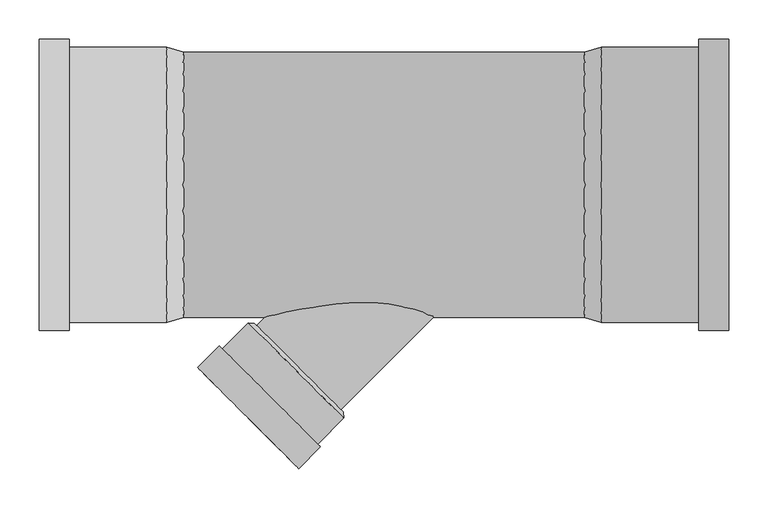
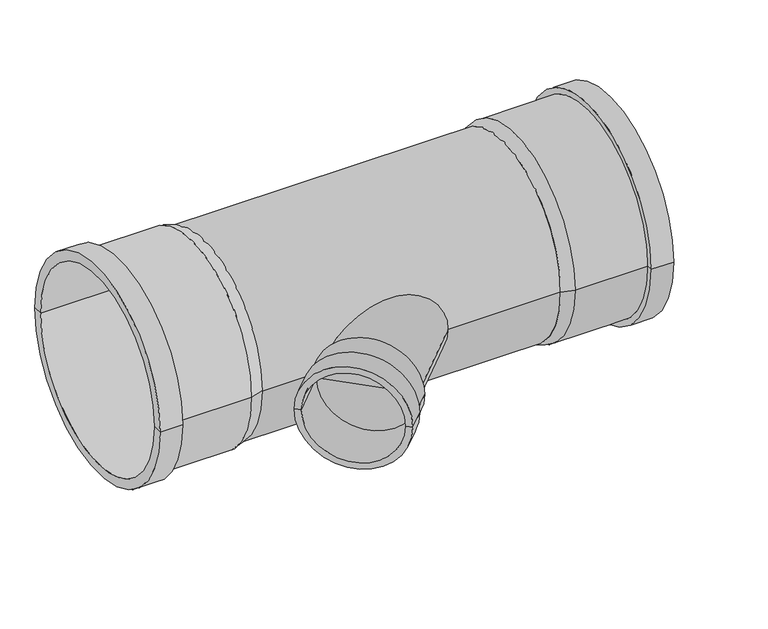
"""IFC4 building model written with IfcOpenShell, lengths in millimetres: pipe fitting geometry, PIF_X-Stream_TransitionTee_X-Stream-PVC_Wavin : Socket End - Black RAL9200 - Tee 45°."""

from ifc_helpers import new_model, si_unit, point, frame, origin, origin_2d, place, context, project, spatial, polyline, circle_curve, trimmed, segment, composite_curve, outline, extrude, source, transform, mapped, element, save
from ifc_brep_helpers import plane_surface, cylinder_surface, revolved_surface, advanced_brep


def pipe_fitting_3b8126a7(model_context):
    return source(origin(), model_context, "Body", "SolidModel", [
        advanced_brep(
        [(-289.6309376, -176.4938526, 0.0), (-176.4938526, -289.6309376, 0.0), (-175.8221011, -297.3737568, 0.0), (-297.3737568, -175.8221011, 0.0), (-233.0623951, -233.0623951, 0.0), (-293.1664715, -180.0293865, 0.0), (-180.0293865, -293.1664715, 0.0), (-236.597929, -236.597929, 0.0), (-353.9776547, -240.8405697, 0.0), (-240.8405697, -353.9776547, 0.0), (-361.8265399, -232.9916844, 0.0), (-232.9916844, -361.8265399, 0.0), (-334.2493755, -205.4145199, 0.0), (-205.4145199, -334.2493755, 0.0), (-330.6077755, -209.0561199, 0.0), (-209.0561199, -330.6077755, 0.0)],
        [
            (0, 1, circle_curve(frame((-233.0623951, -233.0623951, 0.0), z_axis=(-0.7071067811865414, -0.7071067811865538, 0.0), x_axis=(0.7071067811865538, -0.7071067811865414, 0.0)), 80.0)),
            (1, 2),
            (2, 3, circle_curve(frame((-236.597929, -236.597929, 0.0), z_axis=(0.7071067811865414, 0.7071067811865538, 0.0), x_axis=(0.7071067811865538, -0.7071067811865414, 0.0)), 85.95)),
            (3, 0),
            (1, 0, circle_curve(frame((-233.0623951, -233.0623951, 0.0), z_axis=(-0.7071067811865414, -0.7071067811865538, 0.0), x_axis=(0.7071067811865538, -0.7071067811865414, 0.0)), 80.0)),
            (3, 2, circle_curve(frame((-236.597929, -236.597929, 0.0), z_axis=(0.7071067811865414, 0.7071067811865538, 0.0), x_axis=(0.7071067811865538, -0.7071067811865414, 0.0)), 85.95)),
            (4, 1),
            (0, 4),
            (5, 6, circle_curve(frame((-236.597929, -236.597929, 0.0), z_axis=(-0.7071067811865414, -0.7071067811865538, 0.0), x_axis=(0.7071067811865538, -0.7071067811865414, 0.0)), 80.0)),
            (6, 7),
            (7, 5),
            (6, 5, circle_curve(frame((-236.597929, -236.597929, 0.0), z_axis=(-0.7071067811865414, -0.7071067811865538, 0.0), x_axis=(0.7071067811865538, -0.7071067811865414, 0.0)), 80.0)),
            (8, 9, circle_curve(frame((-297.4091122, -297.4091122, 0.0), z_axis=(-0.7071067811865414, -0.7071067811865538, 0.0), x_axis=(0.7071067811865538, -0.7071067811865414, 0.0)), 80.0)),
            (9, 6),
            (5, 8),
            (9, 8, circle_curve(frame((-297.4091122, -297.4091122, 0.0), z_axis=(-0.7071067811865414, -0.7071067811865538, 0.0), x_axis=(0.7071067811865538, -0.7071067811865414, 0.0)), 80.0)),
            (10, 11, circle_curve(frame((-297.4091122, -297.4091122, 0.0), z_axis=(-0.7071067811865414, -0.7071067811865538, 0.0), x_axis=(0.7071067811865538, -0.7071067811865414, 0.0)), 91.1)),
            (11, 9),
            (8, 10),
            (11, 10, circle_curve(frame((-297.4091122, -297.4091122, 0.0), z_axis=(-0.7071067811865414, -0.7071067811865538, 0.0), x_axis=(0.7071067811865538, -0.7071067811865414, 0.0)), 91.1)),
            (12, 13, circle_curve(frame((-269.8319477, -269.8319477, 0.0), z_axis=(-0.7071067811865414, -0.7071067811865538, 0.0), x_axis=(0.7071067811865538, -0.7071067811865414, 0.0)), 91.1)),
            (13, 11),
            (10, 12),
            (13, 12, circle_curve(frame((-269.8319477, -269.8319477, 0.0), z_axis=(-0.7071067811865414, -0.7071067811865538, 0.0), x_axis=(0.7071067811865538, -0.7071067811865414, 0.0)), 91.1)),
            (14, 15, circle_curve(frame((-269.8319477, -269.8319477, 0.0), z_axis=(-0.7071067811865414, -0.7071067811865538, 0.0), x_axis=(0.7071067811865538, -0.7071067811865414, 0.0)), 85.95)),
            (15, 13),
            (12, 14),
            (15, 14, circle_curve(frame((-269.8319477, -269.8319477, 0.0), z_axis=(-0.7071067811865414, -0.7071067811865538, 0.0), x_axis=(0.7071067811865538, -0.7071067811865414, 0.0)), 85.95)),
            (2, 15),
            (14, 3),
        ],
        [
            revolved_surface(polyline([(-175.8221011, -297.3737568, 0.0), (-176.4938526, -289.6309376, 0.0)]), (-1643.1227703, -1643.1227703, 0.0), (0.7071067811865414, 0.7071067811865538, 0.0)),
            plane_surface(frame((-233.0623951, -233.0623951, 0.0), z_axis=(0.7071067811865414, 0.7071067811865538, 0.0), x_axis=(0.7071067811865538, -0.7071067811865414, 0.0))),
            plane_surface(frame((-236.597929, -236.597929, 0.0), z_axis=(-0.7071067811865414, -0.7071067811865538, 0.0), x_axis=(0.7071067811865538, -0.7071067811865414, 0.0))),
            revolved_surface(polyline([(-180.02938650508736, -293.1664714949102, 0.0), (-240.840569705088, -353.97765469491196, 0.0)]), (-1643.1227703, -1643.1227703, 0.0), (0.7071067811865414, 0.7071067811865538, 0.0)),
            plane_surface(frame((-297.4091122, -297.4091122, 0.0), z_axis=(-0.7071067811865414, -0.7071067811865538, 0.0), x_axis=(0.7071067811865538, -0.7071067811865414, 0.0))),
            cylinder_surface(frame((-1643.1227703, -1643.1227703, 0.0), z_axis=(0.7071067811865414, 0.7071067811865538, 0.0), x_axis=(0.7071067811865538, -0.7071067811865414, 0.0)), 91.1),
            plane_surface(frame((-269.8319477, -269.8319477, 0.0), z_axis=(0.7071067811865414, 0.7071067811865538, 0.0), x_axis=(0.7071067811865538, -0.7071067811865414, 0.0))),
            cylinder_surface(frame((-1643.1227703, -1643.1227703, 0.0), z_axis=(0.7071067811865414, 0.7071067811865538, 0.0), x_axis=(0.7071067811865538, -0.7071067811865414, 0.0)), 85.95),
        ],
        [
            (0, [[1, 2, 3, 4]]),
            (0, [[5, -4, 6, -2]]),
            (1, [[7, -1, 8]]),
            (1, [[-8, -5, -7]]),
            (2, [[9, 10, 11]]),
            (2, [[12, -11, -10]]),
            (3, [[13, 14, -9, 15]]),
            (3, [[16, -15, -12, -14]]),
            (4, [[17, 18, -13, 19]]),
            (4, [[20, -19, -16, -18]]),
            (5, [[21, 22, -17, 23]]),
            (5, [[24, -23, -20, -22]]),
            (6, [[25, 26, -21, 27]]),
            (6, [[28, -27, -24, -26]]),
            (7, [[-3, 29, -25, 30]]),
            (7, [[-6, -30, -28, -29]]),
        ],
    ),
        advanced_brep(
        [(152.0, -169.0, 0.0), (152.0, 169.0, 0.0), (152.0, 0.0, 0.0), (130.7, -169.0, 0.0), (130.7, 169.0, 0.0), (152.0, 175.4, 0.0), (152.0, -175.4, 0.0), (130.7, 0.0, 0.0), (314.7, -169.0, 0.0), (314.7, 169.0, 0.0), (314.7, -185.7, 0.0), (314.7, 185.7, 0.0), (276.5, -185.7, 0.0), (276.5, 185.7, 0.0), (276.5, -175.4, 0.0), (276.5, 175.4, 0.0)],
        [
            (0, 1, circle_curve(frame((152.0, 0.0, 0.0), z_axis=(1.0, 0.0, 0.0), x_axis=(0.0, 1.0, 0.0)), 169.0)),
            (1, 2),
            (2, 0),
            (3, 4, circle_curve(frame((130.7, 0.0, 0.0), z_axis=(1.0, 0.0, 0.0), x_axis=(0.0, 1.0, 0.0)), 169.0)),
            (4, 5),
            (5, 6, circle_curve(frame((152.0, 0.0, 0.0), z_axis=(-1.0, 0.0, 0.0), x_axis=(0.0, 1.0, 0.0)), 175.4)),
            (6, 3),
            (4, 3, circle_curve(frame((130.7, 0.0, 0.0), z_axis=(1.0, 0.0, 0.0), x_axis=(0.0, 1.0, 0.0)), 169.0)),
            (6, 5, circle_curve(frame((152.0, 0.0, 0.0), z_axis=(-1.0, 0.0, 0.0), x_axis=(0.0, 1.0, 0.0)), 175.4)),
            (7, 4),
            (3, 7),
            (1, 0, circle_curve(frame((152.0, 0.0, 0.0), z_axis=(1.0, 0.0, 0.0), x_axis=(0.0, 1.0, 0.0)), 169.0)),
            (8, 9, circle_curve(frame((314.7, 0.0, 0.0), z_axis=(1.0, 0.0, 0.0), x_axis=(0.0, 1.0, 0.0)), 169.0)),
            (9, 1),
            (0, 8),
            (9, 8, circle_curve(frame((314.7, 0.0, 0.0), z_axis=(1.0, 0.0, 0.0), x_axis=(0.0, 1.0, 0.0)), 169.0)),
            (10, 11, circle_curve(frame((314.7, 0.0, 0.0), z_axis=(1.0, 0.0, 0.0), x_axis=(0.0, 1.0, 0.0)), 185.7)),
            (11, 9),
            (8, 10),
            (11, 10, circle_curve(frame((314.7, 0.0, 0.0), z_axis=(1.0, 0.0, 0.0), x_axis=(0.0, 1.0, 0.0)), 185.7)),
            (12, 13, circle_curve(frame((276.5, 0.0, 0.0), z_axis=(1.0, 0.0, 0.0), x_axis=(0.0, 1.0, 0.0)), 185.7)),
            (13, 11),
            (10, 12),
            (13, 12, circle_curve(frame((276.5, 0.0, 0.0), z_axis=(1.0, 0.0, 0.0), x_axis=(0.0, 1.0, 0.0)), 185.7)),
            (14, 15, circle_curve(frame((276.5, 0.0, 0.0), z_axis=(1.0, 0.0, 0.0), x_axis=(0.0, 1.0, 0.0)), 175.4)),
            (15, 13),
            (12, 14),
            (15, 14, circle_curve(frame((276.5, 0.0, 0.0), z_axis=(1.0, 0.0, 0.0), x_axis=(0.0, 1.0, 0.0)), 175.4)),
            (5, 15),
            (14, 6),
        ],
        [
            plane_surface(frame((152.0, 0.0, 0.0), z_axis=(1.0, 0.0, 0.0), x_axis=(0.0, 1.0, 0.0))),
            revolved_surface(polyline([(152.0, 175.4, 0.0), (130.7, 169.0, 0.0)]), (2217.8265064, 0.0, 0.0), (-1.0, 0.0, 0.0)),
            plane_surface(frame((130.7, 0.0, 0.0), z_axis=(-1.0, 0.0, 0.0), x_axis=(0.0, 1.0, 0.0))),
            revolved_surface(polyline([(152.0, 169.0, 0.0), (314.70000000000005, 169.0, 0.0)]), (2217.8265064, 0.0, 0.0), (-1.0, 0.0, 0.0)),
            plane_surface(frame((314.7, 0.0, 0.0), z_axis=(1.0, 0.0, 0.0), x_axis=(0.0, 1.0, 0.0))),
            cylinder_surface(frame((2217.8265064, 0.0, 0.0), z_axis=(-1.0, 0.0, 0.0), x_axis=(0.0, 1.0, 0.0)), 185.7),
            plane_surface(frame((276.5, 0.0, 0.0), z_axis=(-1.0, 0.0, 0.0), x_axis=(0.0, 1.0, 0.0))),
            cylinder_surface(frame((2217.8265064, 0.0, 0.0), z_axis=(-1.0, 0.0, 0.0), x_axis=(0.0, 1.0, 0.0)), 175.4),
        ],
        [
            (0, [[1, 2, 3]]),
            (1, [[4, 5, 6, 7]]),
            (1, [[8, -7, 9, -5]]),
            (2, [[10, -4, 11]]),
            (2, [[-11, -8, -10]]),
            (0, [[12, -3, -2]]),
            (3, [[13, 14, -1, 15]]),
            (3, [[16, -15, -12, -14]]),
            (4, [[17, 18, -13, 19]]),
            (4, [[20, -19, -16, -18]]),
            (5, [[21, 22, -17, 23]]),
            (5, [[24, -23, -20, -22]]),
            (6, [[25, 26, -21, 27]]),
            (6, [[28, -27, -24, -26]]),
            (7, [[-6, 29, -25, 30]]),
            (7, [[-9, -30, -28, -29]]),
        ],
    ),
        advanced_brep(
        [(-401.0, 169.0, 0.0), (-401.0, -169.0, 0.0), (-401.0, 0.0, 0.0), (-379.7, 169.0, 0.0), (-379.7, -169.0, 0.0), (-401.0, -175.4, 0.0), (-401.0, 175.4, 0.0), (-379.7, 0.0, 0.0), (-563.7, 169.0, 0.0), (-563.7, -169.0, 0.0), (-563.7, 185.7, 0.0), (-563.7, -185.7, 0.0), (-525.5, 185.7, 0.0), (-525.5, -185.7, 0.0), (-525.5, 175.4, 0.0), (-525.5, -175.4, 0.0)],
        [
            (0, 1, circle_curve(frame((-401.0, 0.0, 0.0), z_axis=(-1.0, 0.0, 0.0), x_axis=(0.0, -1.0, 0.0)), 169.0)),
            (1, 2),
            (2, 0),
            (3, 4, circle_curve(frame((-379.7, 0.0, 0.0), z_axis=(-1.0, 0.0, 0.0), x_axis=(0.0, -1.0, 0.0)), 169.0)),
            (4, 5),
            (5, 6, circle_curve(frame((-401.0, 0.0, 0.0), z_axis=(1.0, 0.0, 0.0), x_axis=(0.0, -1.0, 0.0)), 175.4)),
            (6, 3),
            (4, 3, circle_curve(frame((-379.7, 0.0, 0.0), z_axis=(-1.0, 0.0, 0.0), x_axis=(0.0, -1.0, 0.0)), 169.0)),
            (6, 5, circle_curve(frame((-401.0, 0.0, 0.0), z_axis=(1.0, 0.0, 0.0), x_axis=(0.0, -1.0, 0.0)), 175.4)),
            (7, 4),
            (3, 7),
            (1, 0, circle_curve(frame((-401.0, 0.0, 0.0), z_axis=(-1.0, 0.0, 0.0), x_axis=(0.0, -1.0, 0.0)), 169.0)),
            (8, 9, circle_curve(frame((-563.7, 0.0, 0.0), z_axis=(-1.0, 0.0, 0.0), x_axis=(0.0, -1.0, 0.0)), 169.0)),
            (9, 1),
            (0, 8),
            (9, 8, circle_curve(frame((-563.7, 0.0, 0.0), z_axis=(-1.0, 0.0, 0.0), x_axis=(0.0, -1.0, 0.0)), 169.0)),
            (10, 11, circle_curve(frame((-563.7, 0.0, 0.0), z_axis=(-1.0, 0.0, 0.0), x_axis=(0.0, -1.0, 0.0)), 185.7)),
            (11, 9),
            (8, 10),
            (11, 10, circle_curve(frame((-563.7, 0.0, 0.0), z_axis=(-1.0, 0.0, 0.0), x_axis=(0.0, -1.0, 0.0)), 185.7)),
            (12, 13, circle_curve(frame((-525.5, 0.0, 0.0), z_axis=(-1.0, 0.0, 0.0), x_axis=(0.0, -1.0, 0.0)), 185.7)),
            (13, 11),
            (10, 12),
            (13, 12, circle_curve(frame((-525.5, 0.0, 0.0), z_axis=(-1.0, 0.0, 0.0), x_axis=(0.0, -1.0, 0.0)), 185.7)),
            (14, 15, circle_curve(frame((-525.5, 0.0, 0.0), z_axis=(-1.0, 0.0, 0.0), x_axis=(0.0, -1.0, 0.0)), 175.4)),
            (15, 13),
            (12, 14),
            (15, 14, circle_curve(frame((-525.5, 0.0, 0.0), z_axis=(-1.0, 0.0, 0.0), x_axis=(0.0, -1.0, 0.0)), 175.4)),
            (5, 15),
            (14, 6),
        ],
        [
            plane_surface(frame((-401.0, 0.0, 0.0), z_axis=(-1.0, 0.0, 0.0), x_axis=(0.0, -1.0, 0.0))),
            revolved_surface(polyline([(-401.0, -175.4, 0.0), (-379.7, -169.0, 0.0)]), (-2466.8265064, 0.0, 0.0), (1.0, 0.0, 0.0)),
            plane_surface(frame((-379.7, 0.0, 0.0), z_axis=(1.0, 0.0, 0.0), x_axis=(0.0, -1.0, 0.0))),
            revolved_surface(polyline([(-401.0, -169.0, 0.0), (-563.7, -169.0, 0.0)]), (-2466.8265064, 0.0, 0.0), (1.0, 0.0, 0.0)),
            plane_surface(frame((-563.7, 0.0, 0.0), z_axis=(-1.0, 0.0, 0.0), x_axis=(0.0, -1.0, 0.0))),
            cylinder_surface(frame((-2466.8265064, 0.0, 0.0), z_axis=(1.0, 0.0, 0.0), x_axis=(0.0, -1.0, 0.0)), 185.7),
            plane_surface(frame((-525.5, 0.0, 0.0), z_axis=(1.0, 0.0, 0.0), x_axis=(0.0, -1.0, 0.0))),
            cylinder_surface(frame((-2466.8265064, 0.0, 0.0), z_axis=(1.0, 0.0, 0.0), x_axis=(0.0, -1.0, 0.0)), 175.4),
        ],
        [
            (0, [[1, 2, 3]]),
            (1, [[4, 5, 6, 7]]),
            (1, [[8, -7, 9, -5]]),
            (2, [[10, -4, 11]]),
            (2, [[-11, -8, -10]]),
            (0, [[12, -3, -2]]),
            (3, [[13, 14, -1, 15]]),
            (3, [[16, -15, -12, -14]]),
            (4, [[17, 18, -13, 19]]),
            (4, [[20, -19, -16, -18]]),
            (5, [[21, 22, -17, 23]]),
            (5, [[24, -23, -20, -22]]),
            (6, [[25, 26, -21, 27]]),
            (6, [[28, -27, -24, -26]]),
            (7, [[-6, 29, -25, 30]]),
            (7, [[-9, -30, -28, -29]]),
        ],
    ),
        extrude(outline(composite_curve([segment(trimmed(circle_curve(origin_2d(), 76.0), [point((0.0, -76.0))], [point((0.0, 76.0))], False, "CARTESIAN"), True, "CONTINUOUS"), segment(trimmed(circle_curve(origin_2d(), 76.0), [point((0.0, 76.0))], [point((0.0, -76.0))], False, "CARTESIAN"), True, "CONTINUOUS")], self_intersect=False)), frame((-236.597929, -236.597929, 0.0), z_axis=(0.7071067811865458, 0.7071067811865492, 0.0), x_axis=(0.0, 0.0, 1.0)), (0.0, 0.0, 1.0), 334.6),
        extrude(outline(composite_curve([segment(trimmed(circle_curve(origin_2d(), 169.0), [point((-169.0, 0.0))], [point((169.0, 0.0))], False, "CARTESIAN"), True, "CONTINUOUS"), segment(trimmed(circle_curve(origin_2d(), 169.0), [point((169.0, 0.0))], [point((-169.0, 0.0))], False, "CARTESIAN"), True, "CONTINUOUS")], self_intersect=False)), frame((-401.0, 0.0, 0.0), z_axis=(1.0, 0.0, 0.0), x_axis=(0.0, 1.0, 0.0)), (0.0, 0.0, 1.0), 553.0),
    ])


if __name__ == "__main__":
    model = new_model("IFC4")
    model_context = context("Model", 3, world=origin())
    ifc_project = project(units=[si_unit("LENGTHUNIT", "METRE", prefix="MILLI")], contexts=[model_context])
    site = spatial("IfcSite", under=ifc_project)
    building = spatial("IfcBuilding", under=site)
    placement = place(None, origin())
    pipe_fitting_shape = pipe_fitting_3b8126a7(model_context)
    element("IfcPipeFitting", 1, ObjectType="PIF_X-Stream_TransitionTee_X-Stream-PVC_Wavin : Socket End - Black RAL9200 - Tee 45°", at=placement, inside=building, context=model_context, shape_type="MappedRepresentation", body=[
        mapped(pipe_fitting_shape, transform((0.0, 0.0, 0.0), x_axis=(1.0, 0.0, 0.0), y_axis=(0.0, 1.0, 0.0), z_axis=(0.0, 0.0, 1.0))),
    ])
    save(model, "model.ifc")
